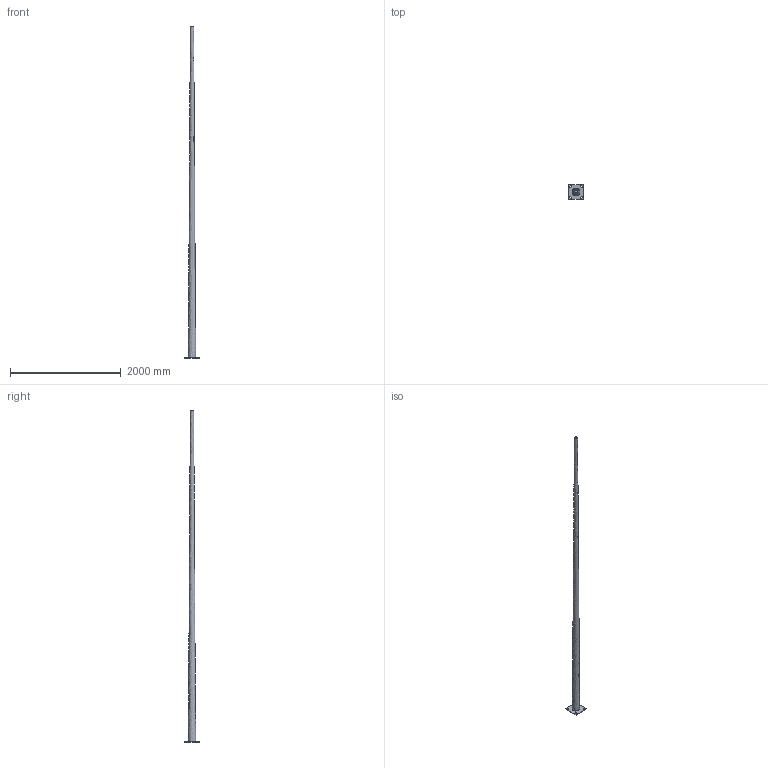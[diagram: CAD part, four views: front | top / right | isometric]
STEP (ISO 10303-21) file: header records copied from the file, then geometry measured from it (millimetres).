
FILE_DESCRIPTION(('FreeCAD Model'),'2;1');
FILE_NAME('Open CASCADE Shape Model','2024-12-18T14:19:31',(''),(''), 'Open CASCADE STEP processor 7.8','FreeCAD','Unknown');
FILE_SCHEMA(('AUTOMOTIVE_DESIGN { 1 0 10303 214 1 1 1 1 }'));
Length unit declared in the file: millimetre
Products named in the file (1): Body
Bounding box: 270 x 270 x 6000 mm (x, y, z)
Volume: 5654396.9 mm3; surface area: 3687472.4 mm2
Topology: 1 solids, 1 shells, 51 faces, 140 edges, 93 vertices
Faces by surface type: plane 32, cylinder 16, bspline 2, offset 1
Entity records: 3092 total; most frequent: CARTESIAN_POINT 1849, ORIENTED_EDGE 280, DIRECTION 198, EDGE_CURVE 140, VERTEX_POINT 93, LINE 68, VECTOR 68, AXIS2_PLACEMENT_3D 65
